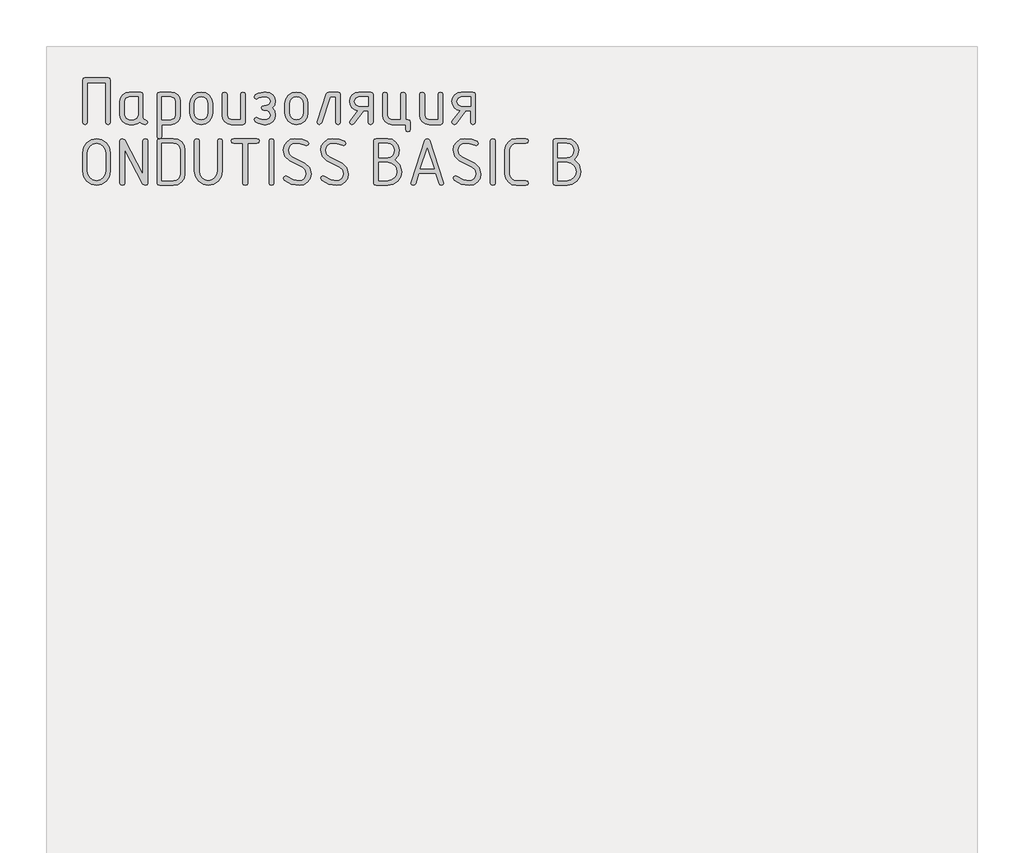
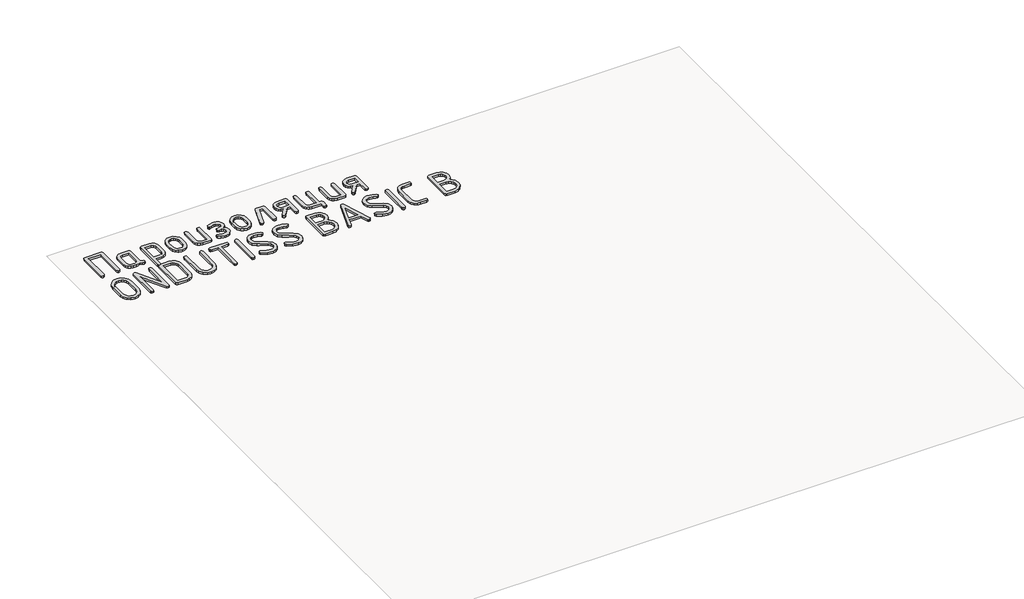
# One storey, part 19 of 42: 1 proxy.
"""IFC4 building model written with IfcOpenShell, lengths in millimetres."""

from ifc_helpers import new_model, si_unit, origin, origin_with_axes, place, context, project, spatial, polyline, outline, extrude, element, save

model = new_model("IFC4")

# Units and contexts
model_context = context("Model", 3, world=origin())
ifc_project = project(units=[si_unit("LENGTHUNIT", "METRE", prefix="MILLI")], contexts=[model_context])

# Site, building, storey
site = spatial("IfcSite", under=ifc_project)
building = spatial("IfcBuilding", under=site)
storey = spatial("IfcBuildingStorey", under=building, Name="Этаж 01", Elevation=0.0)

# Proxy
placement = place(None, origin())
element("IfcBuildingElementProxy", 1, Name="150 мм GOST Common", ObjectType="150 мм GOST Common", at=placement, inside=storey, context=model_context, shape_type="SweptSolid", body=[
    extrude(outline(polyline([(-17013.0545046, -30675.913887), (-16938.5048151, -30675.913887), (-16932.9016029, -30677.8016002), (-16931.0338655, -30683.4647398), (-16931.0338655, -30819.2202837), (-16932.9515424, -30824.8834233), (-16938.7045731, -30826.7711365), (-16944.4576038, -30824.8934112), (-16946.3752807, -30819.2602353), (-16946.3752807, -30691.2553022), (-17005.184039, -30691.2553022), (-17005.184039, -30819.2602353), (-17007.1017159, -30824.8934112), (-17012.8547466, -30826.7711365), (-17018.6077773, -30824.8834233), (-17020.5254542, -30819.2202837), (-17020.5254542, -30683.4647398), (-17018.6577168, -30677.8016002), (-17013.0545046, -30675.913887)])), origin_with_axes(), (0.0, 0.0, 1.0), 10.0),
    extrude(outline(polyline([(-16811.2190109, -30819.3001869), (-16813.0867483, -30824.9033991), (-16818.6899605, -30826.7711365), (-16828.1684781, -30824.7835443), (-16835.7492945, -30818.8207677), (-16844.8682477, -30824.7835443), (-16855.8449504, -30826.7711365), (-16870.7069464, -30826.7711365), (-16882.2030199, -30824.6037621), (-16891.7614407, -30818.1016388), (-16898.2036365, -30808.443339), (-16900.3510351, -30796.8074349), (-16900.3510351, -30751.9018342), (-16898.2036365, -30740.2659301), (-16891.7614407, -30730.6076303), (-16882.2030199, -30724.105507), (-16870.7069464, -30721.9381326), (-16833.6318596, -30721.9381326), (-16828.0586111, -30723.80587), (-16826.2008617, -30729.4090822), (-16826.2008617, -30804.3183361), (-16824.3281303, -30809.9215483), (-16818.7099363, -30811.7892857), (-16813.0917422, -30813.667011), (-16811.2190109, -30819.3001869)]), holes=[polyline([(-16841.5422768, -30737.2795478), (-16870.5071884, -30737.2795478), (-16880.7747501, -30741.6142966), (-16885.0096199, -30752.1015922), (-16885.0096199, -30796.6076769), (-16880.7347985, -30807.0550209), (-16870.5071884, -30811.4297213), (-16856.0447084, -30811.4297213), (-16845.7771467, -30807.0949725), (-16841.5422768, -30796.6076769), (-16841.5422768, -30737.2795478)])]), origin_with_axes(), (0.0, 0.0, 1.0), 10.0),
    extrude(outline(polyline([(-16780.1766161, -30729.4889854), (-16778.3188666, -30723.8258458), (-16772.7456181, -30721.9381326), (-16735.6705313, -30721.9381326), (-16724.1744578, -30724.105507), (-16714.6160371, -30730.6076303), (-16708.1738412, -30740.2659301), (-16706.0264426, -30751.9018342), (-16706.0264426, -30796.8074349), (-16708.1588594, -30808.3684298), (-16714.5561096, -30818.0417114), (-16724.0396212, -30824.5887802), (-16735.4308217, -30826.7711365), (-16764.8352009, -30826.7711365), (-16764.8352009, -30865.1246745), (-16766.7528778, -30870.8777052), (-16772.5059085, -30872.7953821), (-16778.2589392, -30870.9076689), (-16780.1766161, -30865.2445293), (-16780.1766161, -30729.4889854)]), holes=[polyline([(-16764.8352009, -30737.2795478), (-16764.8352009, -30811.4297213), (-16735.8702894, -30811.4297213), (-16725.6027276, -30807.0949725), (-16721.3678578, -30796.6076769), (-16721.3678578, -30752.1015922), (-16725.5428002, -30741.5543692), (-16735.8702894, -30737.2795478), (-16764.8352009, -30737.2795478)])]), origin_with_axes(), (0.0, 0.0, 1.0), 10.0),
    extrude(outline(polyline([(-16675.3436122, -30789.3364853), (-16675.3436122, -30759.3727838), (-16672.6318972, -30744.9802191), (-16664.4967522, -30732.8848716), (-16652.5162656, -30724.6748174), (-16638.2685255, -30721.9381326), (-16623.8709669, -30724.6448537), (-16611.9204439, -30732.7650168), (-16603.87519, -30744.8304006), (-16601.1934388, -30759.3727838), (-16601.1934388, -30789.3364853), (-16603.9051537, -30803.72905), (-16612.0402987, -30815.8243975), (-16624.0207854, -30824.0344517), (-16638.2685255, -30826.7711365), (-16652.5162656, -30824.0344517), (-16664.4967522, -30815.8243975), (-16672.6318972, -30803.72905), (-16675.3436122, -30789.3364853)]), holes=[polyline([(-16616.534854, -30788.8970177), (-16616.534854, -30758.8933645), (-16618.1279241, -30750.2638185), (-16622.9071345, -30742.9926269), (-16629.9336225, -30738.0486162), (-16638.2685255, -30736.4006126), (-16646.6034285, -30738.0486162), (-16653.6299165, -30742.9926269), (-16658.4091269, -30750.2638185), (-16660.002197, -30758.8933645), (-16660.002197, -30788.8970177), (-16658.4241087, -30797.606467), (-16653.6898439, -30804.8776585), (-16646.6783377, -30809.7917056), (-16638.2685255, -30811.4297213), (-16629.9336225, -30809.7817177), (-16622.9071345, -30804.8377069), (-16618.1279241, -30797.5565275), (-16616.534854, -30788.8970177)])]), origin_with_axes(), (0.0, 0.0, 1.0), 10.0),
    extrude(outline(polyline([(-16496.3604349, -30729.4090822), (-16496.3604349, -30819.3001869), (-16498.2181844, -30824.9033991), (-16503.7914329, -30826.7711365), (-16540.8665196, -30826.7711365), (-16552.3625931, -30824.6037621), (-16561.9210139, -30818.1016388), (-16568.3632097, -30808.443339), (-16570.5106084, -30796.8074349), (-16570.5106084, -30729.4090822), (-16568.5929315, -30723.80587), (-16562.8399008, -30721.9381326), (-16557.0868701, -30723.80587), (-16555.1691932, -30729.4090822), (-16555.1691932, -30796.5277737), (-16550.8943717, -30807.0150692), (-16540.6667616, -30811.4297213), (-16511.7018501, -30811.4297213), (-16511.7018501, -30729.4090822), (-16509.7841732, -30723.80587), (-16504.0311425, -30721.9381326), (-16498.2781118, -30723.80587), (-16496.3604349, -30729.4090822)])), origin_with_axes(), (0.0, 0.0, 1.0), 10.0),
    extrude(outline(polyline([(-16414.5395539, -30796.0483545), (-16418.5347141, -30784.7020995), (-16427.4039697, -30780.7468909), (-16437.0722574, -30780.7468909), (-16442.3858205, -30778.5495528), (-16444.543207, -30773.1161349), (-16442.3258931, -30767.6627412), (-16434.9148709, -30765.4054757), (-16432.6376296, -30765.4054757), (-16430.2405335, -30765.4054757), (-16418.5746657, -30761.3503881), (-16414.5395539, -30751.3425118), (-16418.8743027, -30741.3346354), (-16429.5613562, -30737.2795478), (-16437.0722574, -30737.2795478), (-16452.4536242, -30741.0949258), (-16461.3628315, -30744.9103038), (-16465.3579917, -30742.1736191), (-16467.0759106, -30736.9199834), (-16463.9996372, -30731.1769406), (-16454.7708171, -30726.013196), (-16437.0722574, -30721.9381326), (-16429.5613562, -30721.9381326), (-16417.8755126, -30724.0555675), (-16408.0673943, -30730.4078723), (-16401.4154526, -30739.8264625), (-16399.1981387, -30751.1427537), (-16401.8449323, -30764.4366493), (-16409.7853132, -30773.0761833), (-16401.8449323, -30782.2650518), (-16399.1981387, -30796.0883061), (-16401.4154526, -30807.9888895), (-16408.0673943, -30817.881905), (-16417.8755126, -30824.5488286), (-16429.5613562, -30826.7711365), (-16437.0722574, -30826.7711365), (-16454.8906719, -30822.8159279), (-16464.0296009, -30817.7420744), (-16467.0759106, -30811.7892857), (-16465.3579917, -30806.5156742), (-16461.2429767, -30803.7989653), (-16452.1140356, -30807.6143433), (-16437.0722574, -30811.4297213), (-16429.5613562, -30811.4297213), (-16418.9142543, -30806.935166), (-16414.5395539, -30796.0483545)])), origin_with_axes(), (0.0, 0.0, 1.0), 10.0),
    extrude(outline(polyline([(-16368.5153083, -30789.3364853), (-16368.5153083, -30759.3727838), (-16365.8035933, -30744.9802191), (-16357.6684483, -30732.8848716), (-16345.6879616, -30724.6748174), (-16331.4402215, -30721.9381326), (-16317.0426629, -30724.6448537), (-16305.09214, -30732.7650168), (-16297.0468861, -30744.8304006), (-16294.3651348, -30759.3727838), (-16294.3651348, -30789.3364853), (-16297.0768498, -30803.72905), (-16305.2119948, -30815.8243975), (-16317.1924814, -30824.0344517), (-16331.4402215, -30826.7711365), (-16345.6879616, -30824.0344517), (-16357.6684483, -30815.8243975), (-16365.8035933, -30803.72905), (-16368.5153083, -30789.3364853)]), holes=[polyline([(-16309.70655, -30788.8970177), (-16309.70655, -30758.8933645), (-16311.2996201, -30750.2638185), (-16316.0788305, -30742.9926269), (-16323.1053185, -30738.0486162), (-16331.4402215, -30736.4006126), (-16339.7751245, -30738.0486162), (-16346.8016125, -30742.9926269), (-16351.5808229, -30750.2638185), (-16353.1738931, -30758.8933645), (-16353.1738931, -30788.8970177), (-16351.5958048, -30797.606467), (-16346.8615399, -30804.8776585), (-16339.8500338, -30809.7917056), (-16331.4402215, -30811.4297213), (-16323.1053185, -30809.7817177), (-16316.0788305, -30804.8377069), (-16311.2996201, -30797.5565275), (-16309.70655, -30788.8970177)])]), origin_with_axes(), (0.0, 0.0, 1.0), 10.0),
    extrude(outline(polyline([(-16227.3662981, -30721.9381326), (-16197.2028386, -30721.9381326), (-16191.4498079, -30723.80587), (-16189.532131, -30729.4090822), (-16189.532131, -30819.3001869), (-16191.4498079, -30824.9033991), (-16197.2028386, -30826.7711365), (-16202.9558693, -30824.9033991), (-16204.8735462, -30819.3001869), (-16204.8735462, -30737.2795478), (-16222.0127834, -30737.2795478), (-16250.2985177, -30821.697283), (-16257.3699513, -30826.7711365), (-16263.0031272, -30824.8734354), (-16264.8808525, -30819.1803321), (-16264.5212881, -30816.9030908), (-16234.8771993, -30728.0507277), (-16231.9607324, -30723.4662814), (-16227.3662981, -30721.9381326)])), origin_with_axes(), (0.0, 0.0, 1.0), 10.0),
    extrude(outline(polyline([(-16133.3202268, -30781.6258261), (-16143.9024074, -30778.5046072), (-16152.47702, -30771.8576594), (-16158.1551415, -30762.663797), (-16160.0478486, -30751.9018342), (-16157.8704863, -30740.2659301), (-16151.3383994, -30730.6076303), (-16141.6601238, -30724.105507), (-16130.0441955, -30721.9381326), (-16092.3698347, -30721.9381326), (-16086.616804, -30723.80587), (-16084.6991271, -30729.4090822), (-16084.6991271, -30819.3001869), (-16086.616804, -30824.9033991), (-16092.3698347, -30826.7711365), (-16098.1228654, -30824.8934112), (-16100.0405423, -30819.2602353), (-16100.0405423, -30781.7856325), (-16115.2621027, -30781.7856325), (-16146.5042555, -30823.6948631), (-16152.5369474, -30826.7711365), (-16158.1701233, -30824.9033991), (-16160.0478486, -30819.3001869), (-16158.5696393, -30814.7457043), (-16133.3202268, -30781.6258261)]), holes=[polyline([(-16145.0260462, -30752.3013502), (-16140.5914184, -30762.8485732), (-16130.0441955, -30767.283201), (-16100.0405423, -30767.283201), (-16100.0405423, -30737.2795478), (-16130.0441955, -30737.2795478), (-16140.6513458, -30741.6542483), (-16145.0260462, -30752.3013502)])]), origin_with_axes(), (0.0, 0.0, 1.0), 10.0),
    extrude(outline(polyline([(-15972.1954157, -30811.4297213), (-15966.442385, -30813.3473982), (-15964.5247081, -30819.1004289), (-15964.5247081, -30842.1125517), (-15966.442385, -30847.8655824), (-15972.1954157, -30849.7832593), (-15977.9484464, -30847.8655824), (-15979.8661233, -30842.1125517), (-15979.8661233, -30826.7711365), (-16024.372208, -30826.7711365), (-16035.8682815, -30824.5887802), (-16045.4267023, -30818.0417114), (-16051.8688981, -30808.3684298), (-16054.0162967, -30796.8074349), (-16054.0162967, -30729.4090822), (-16052.0986198, -30723.80587), (-16046.3455891, -30721.9381326), (-16040.5925584, -30723.80587), (-16038.6748815, -30729.4090822), (-16038.6748815, -30796.5277737), (-16034.4000601, -30807.0150692), (-16024.17245, -30811.4297213), (-15995.2075385, -30811.4297213), (-15995.2075385, -30729.4090822), (-15993.2898616, -30723.80587), (-15987.5368309, -30721.9381326), (-15981.7838002, -30723.80587), (-15979.8661233, -30729.4090822), (-15979.8661233, -30811.4297213), (-15972.1954157, -30811.4297213)])), origin_with_axes(), (0.0, 0.0, 1.0), 10.0),
    extrude(outline(polyline([(-15859.6917042, -30729.4090822), (-15859.6917042, -30819.3001869), (-15861.5494537, -30824.9033991), (-15867.1227022, -30826.7711365), (-15904.1977889, -30826.7711365), (-15915.6938624, -30824.6037621), (-15925.2522832, -30818.1016388), (-15931.6944791, -30808.443339), (-15933.8418777, -30796.8074349), (-15933.8418777, -30729.4090822), (-15931.9242008, -30723.80587), (-15926.1711701, -30721.9381326), (-15920.4181394, -30723.80587), (-15918.5004625, -30729.4090822), (-15918.5004625, -30796.5277737), (-15914.225641, -30807.0150692), (-15903.9980309, -30811.4297213), (-15875.0331194, -30811.4297213), (-15875.0331194, -30729.4090822), (-15873.1154425, -30723.80587), (-15867.3624118, -30721.9381326), (-15861.6093811, -30723.80587), (-15859.6917042, -30729.4090822)])), origin_with_axes(), (0.0, 0.0, 1.0), 10.0),
    extrude(outline(polyline([(-15803.4798001, -30781.6258261), (-15814.0619807, -30778.5046072), (-15822.6365933, -30771.8576594), (-15828.3147147, -30762.663797), (-15830.2074219, -30751.9018342), (-15828.0300596, -30740.2659301), (-15821.4979726, -30730.6076303), (-15811.819697, -30724.105507), (-15800.2037687, -30721.9381326), (-15762.529408, -30721.9381326), (-15756.7763773, -30723.80587), (-15754.8587004, -30729.4090822), (-15754.8587004, -30819.3001869), (-15756.7763773, -30824.9033991), (-15762.529408, -30826.7711365), (-15768.2824387, -30824.8934112), (-15770.2001156, -30819.2602353), (-15770.2001156, -30781.7856325), (-15785.4216759, -30781.7856325), (-15816.6638288, -30823.6948631), (-15822.6965207, -30826.7711365), (-15828.3296966, -30824.9033991), (-15830.2074219, -30819.3001869), (-15828.7292126, -30814.7457043), (-15803.4798001, -30781.6258261)]), holes=[polyline([(-15815.1856195, -30752.3013502), (-15810.7509917, -30762.8485732), (-15800.2037687, -30767.283201), (-15770.2001156, -30767.283201), (-15770.2001156, -30737.2795478), (-15800.2037687, -30737.2795478), (-15810.8109191, -30741.6542483), (-15815.1856195, -30752.3013502)])]), origin_with_axes(), (0.0, 0.0, 1.0), 10.0),
    extrude(outline(polyline([(-16931.0338655, -30977.5302169), (-16934.3098969, -30994.8991759), (-16944.137991, -31009.5314502), (-16958.6004709, -31019.4793991), (-16975.7796598, -31022.7953821), (-16992.9588487, -31019.4793991), (-17007.4213287, -31009.5314502), (-17017.2494228, -30994.8991759), (-17020.5254542, -30977.5302169), (-17020.5254542, -30917.2032978), (-17017.2494228, -30899.8343388), (-17007.4213287, -30885.2020645), (-16992.9588487, -30875.2541156), (-16975.7796598, -30871.9381326), (-16958.5255617, -30875.2391337), (-16944.0780636, -30885.1421371), (-16934.294915, -30899.7594295), (-16931.0338655, -30917.2032978), (-16931.0338655, -30977.5302169)]), holes=[polyline([(-16946.3752807, -30977.4103621), (-16946.3752807, -30917.3231526), (-16948.5076975, -30905.6772606), (-16954.9049477, -30895.9889971), (-16964.3884593, -30889.4569101), (-16975.7796598, -30887.2795478), (-16987.1708604, -30889.4569101), (-16996.6543719, -30895.9889971), (-17003.0516222, -30905.6772606), (-17005.184039, -30917.3231526), (-17005.184039, -30977.4103621), (-17003.0516222, -30989.0562541), (-16996.6543719, -30998.7445176), (-16987.1708604, -31005.2766046), (-16975.7796598, -31007.4539669), (-16964.3884593, -31005.2766046), (-16954.9049477, -30998.7445176), (-16948.5076975, -30989.0562541), (-16946.3752807, -30977.4103621)])]), origin_with_axes(), (0.0, 0.0, 1.0), 10.0),
    extrude(outline(polyline([(-16826.2008617, -30986.1198114), (-16826.2008617, -30879.4889854), (-16824.2831848, -30873.8258458), (-16818.5301541, -30871.9381326), (-16812.7771234, -30873.8258458), (-16810.8594465, -30879.4889854), (-16810.8594465, -31015.2445293), (-16812.8969782, -31020.9076689), (-16819.0095733, -31022.7953821), (-16826.2008617, -31019.0399315), (-16885.0096199, -30908.4938485), (-16885.0096199, -31015.2445293), (-16886.9272968, -31020.9076689), (-16892.6803275, -31022.7953821), (-16898.4333582, -31020.9076689), (-16900.3510351, -31015.2445293), (-16900.3510351, -30879.4889854), (-16898.353455, -30873.8258458), (-16892.3607147, -30871.9381326), (-16885.0096199, -30876.4127121), (-16826.2008617, -30986.1198114)])), origin_with_axes(), (0.0, 0.0, 1.0), 10.0),
    extrude(outline(polyline([(-16780.1766161, -30879.4889854), (-16778.3088787, -30873.8258458), (-16772.7056665, -30871.9381326), (-16727.9598721, -30871.9381326), (-16713.4874043, -30874.6648295), (-16701.47196, -30882.84492), (-16693.3817605, -30895.0001949), (-16690.6850274, -30909.652445), (-16690.6850274, -30985.0810697), (-16693.4117242, -30999.5835013), (-16701.5918148, -31011.7687399), (-16713.6372228, -31020.0387215), (-16727.9598721, -31022.7953821), (-16772.7056665, -31022.7953821), (-16778.3088787, -31020.9076689), (-16780.1766161, -31015.2445293), (-16780.1766161, -30879.4889854)]), holes=[polyline([(-16764.8352009, -30887.2795478), (-16764.8352009, -31007.4539669), (-16728.079727, -31007.4539669), (-16719.6049934, -31005.8059633), (-16712.4786263, -31000.8619525), (-16707.6394885, -30993.580773), (-16706.0264426, -30984.9212633), (-16706.0264426, -30909.8122514), (-16707.6394885, -30901.1527416), (-16712.4786263, -30893.8715622), (-16719.6049934, -30888.9275514), (-16728.079727, -30887.2795478), (-16764.8352009, -30887.2795478)])]), origin_with_axes(), (0.0, 0.0, 1.0), 10.0),
    extrude(outline(polyline([(-16570.5106084, -30879.4889854), (-16570.5106084, -30977.5302169), (-16573.7866397, -30994.8991759), (-16583.6147338, -31009.5314502), (-16598.0772138, -31019.4793991), (-16615.2564027, -31022.7953821), (-16632.4355916, -31019.4793991), (-16646.8980715, -31009.5314502), (-16656.7261656, -30994.8991759), (-16660.002197, -30977.5302169), (-16660.002197, -30879.4889854), (-16658.0845201, -30873.8258458), (-16652.3314894, -30871.9381326), (-16646.5784587, -30873.8158579), (-16644.6607818, -30879.4490338), (-16644.6607818, -30977.3304589), (-16642.5283651, -30989.0113086), (-16636.1311148, -30998.7245418), (-16626.6476032, -31005.2716106), (-16615.2564027, -31007.4539669), (-16603.8652021, -31005.2716106), (-16594.3816906, -30998.7245418), (-16587.9844403, -30989.0113086), (-16585.8520236, -30977.3304589), (-16585.8520236, -30879.4490338), (-16583.9343467, -30873.8158579), (-16578.181316, -30871.9381326), (-16572.4282853, -30873.8258458), (-16570.5106084, -30879.4889854)])), origin_with_axes(), (0.0, 0.0, 1.0), 10.0),
    extrude(outline(polyline([(-16541.5456969, -30879.6088402), (-16539.6679716, -30873.8558095), (-16534.0347957, -30871.9381326), (-16458.6860741, -30871.9381326), (-16453.082862, -30873.8558095), (-16451.2151246, -30879.6088402), (-16453.082862, -30885.3618709), (-16458.6860741, -30887.2795478), (-16488.6897273, -30887.2795478), (-16488.6897273, -31015.2844809), (-16490.6074042, -31020.9176568), (-16496.3604349, -31022.7953821), (-16502.1134656, -31020.9176568), (-16504.0311425, -31015.2844809), (-16504.0311425, -30887.2795478), (-16534.0347957, -30887.2795478), (-16539.6679716, -30885.3618709), (-16541.5456969, -30879.6088402)])), origin_with_axes(), (0.0, 0.0, 1.0), 10.0),
    extrude(outline(polyline([(-16411.9826513, -31022.7953821), (-16417.735682, -31020.9076689), (-16419.6533589, -31015.2445293), (-16419.6533589, -30879.4889854), (-16417.735682, -30873.8258458), (-16411.9826513, -30871.9381326), (-16406.2296206, -30873.8258458), (-16404.3119437, -30879.4889854), (-16404.3119437, -31015.2445293), (-16406.2296206, -31020.9076689), (-16411.9826513, -31022.7953821)])), origin_with_axes(), (0.0, 0.0, 1.0), 10.0),
    extrude(outline(polyline([(-16284.1375247, -30985.1609729), (-16286.8792034, -30999.5535376), (-16295.1042394, -31011.7287883), (-16307.1646293, -31020.0287336), (-16321.4123694, -31022.7953821), (-16347.4308503, -31018.6104518), (-16370.353082, -31006.0556608), (-16373.6291133, -30999.9430657), (-16371.4317752, -30994.6494784), (-16366.1981153, -30992.4321645), (-16361.9632455, -30993.790519), (-16341.5080253, -31004.2578387), (-16321.7319822, -31007.4539669), (-16313.1823394, -31005.8009693), (-16305.991051, -31000.8419767), (-16301.1069677, -30993.5458154), (-16299.4789399, -30984.8813117), (-16302.5652011, -30972.9158069), (-16311.8239849, -30964.665801), (-16353.5334575, -30943.0120327), (-16368.6051994, -30929.3985243), (-16373.6291133, -30909.5725418), (-16370.9024165, -30895.1799771), (-16362.722326, -30883.0047264), (-16350.7268574, -30874.7047811), (-16336.5540266, -30871.9381326), (-16313.3721095, -30874.0256038), (-16296.4026665, -30880.2880175), (-16291.9680387, -30887.2795478), (-16294.1853526, -30892.5731351), (-16299.4789399, -30894.790449), (-16302.5951648, -30893.991417), (-16319.4747167, -30888.9575151), (-16336.2344138, -30887.2795478), (-16344.7091474, -30888.9325454), (-16351.8355144, -30893.891538), (-16356.6746522, -30901.1876993), (-16358.2876981, -30909.852203), (-16355.2513764, -30921.7877441), (-16346.1424111, -30929.9478588), (-16304.4728901, -30951.6016272), (-16289.221366, -30965.3050267), (-16284.1375247, -30985.1609729)])), origin_with_axes(), (0.0, 0.0, 1.0), 10.0),
    extrude(outline(polyline([(-16163.9631056, -30985.1609729), (-16166.7047843, -30999.5535376), (-16174.9298204, -31011.7287883), (-16186.9902103, -31020.0287336), (-16201.2379504, -31022.7953821), (-16227.2564312, -31018.6104518), (-16250.1786629, -31006.0556608), (-16253.4546943, -30999.9430657), (-16251.2573562, -30994.6494784), (-16246.0236963, -30992.4321645), (-16241.7888265, -30993.790519), (-16221.3336062, -31004.2578387), (-16201.5575632, -31007.4539669), (-16193.0079203, -31005.8009693), (-16185.816632, -31000.8419767), (-16180.9325486, -30993.5458154), (-16179.3045208, -30984.8813117), (-16182.3907821, -30972.9158069), (-16191.6495659, -30964.665801), (-16233.3590384, -30943.0120327), (-16248.4307803, -30929.3985243), (-16253.4546943, -30909.5725418), (-16250.7279974, -30895.1799771), (-16242.5479069, -30883.0047264), (-16230.5524384, -30874.7047811), (-16216.3796075, -30871.9381326), (-16193.1976904, -30874.0256038), (-16176.2282475, -30880.2880175), (-16171.7936196, -30887.2795478), (-16174.0109335, -30892.5731351), (-16179.3045208, -30894.790449), (-16182.4207458, -30893.991417), (-16199.3002977, -30888.9575151), (-16216.0599947, -30887.2795478), (-16224.5347283, -30888.9325454), (-16231.6610953, -30893.891538), (-16236.5002331, -30901.1876993), (-16238.1132791, -30909.852203), (-16235.0769573, -30921.7877441), (-16225.967992, -30929.9478588), (-16184.2984711, -30951.6016272), (-16169.046947, -30965.3050267), (-16163.9631056, -30985.1609729)])), origin_with_axes(), (0.0, 0.0, 1.0), 10.0),
    extrude(outline(polyline([(-16014.5041623, -30940.175469), (-15998.1140175, -30955.9863155), (-15992.6506359, -30978.1694425), (-15995.9266673, -30995.2837101), (-16005.7547614, -31009.7112324), (-16020.2172414, -31019.5243446), (-16037.3964302, -31022.7953821), (-16074.671275, -31022.7953821), (-16080.2744872, -31020.9076689), (-16082.1422246, -31015.2445293), (-16082.1422246, -30879.4889854), (-16080.2844751, -30873.8258458), (-16074.7112266, -30871.9381326), (-16037.5162851, -30871.9381326), (-16023.0787749, -30874.714769), (-16011.0883003, -30883.044678), (-16003.0130827, -30895.4096988), (-16000.3213435, -30910.2916706), (-16003.8670482, -30926.9514887), (-16014.5041623, -30940.175469)]), holes=[polyline([(-16066.8008094, -30887.2795478), (-16066.8008094, -30933.3037934), (-16037.5961883, -30933.3037934), (-16029.1614063, -30931.6208322), (-16022.0749908, -30926.5719485), (-16017.2658167, -30919.1359565), (-16015.6627587, -30910.2916706), (-16017.2658167, -30901.4473847), (-16022.0749908, -30894.0113928), (-16029.1614063, -30888.9625091), (-16037.5961883, -30887.2795478), (-16066.8008094, -30887.2795478)]), polyline([(-16066.8008094, -30948.6452086), (-16066.8008094, -31007.4539669), (-16037.3964302, -31007.4539669), (-16026.0052297, -31005.3215501), (-16016.5217182, -30998.9242998), (-16010.1244679, -30989.4407883), (-16007.9920511, -30978.0495877), (-16010.1244679, -30966.6583872), (-16016.5217182, -30957.1748757), (-16026.0052297, -30950.7776254), (-16037.3964302, -30948.6452086), (-16066.8008094, -30948.6452086)])]), origin_with_axes(), (0.0, 0.0, 1.0), 10.0),
    extrude(outline(polyline([(-15857.2946081, -31015.2445293), (-15859.1723334, -31020.9076689), (-15864.8055093, -31022.7953821), (-15869.3300282, -31021.4869671), (-15871.956846, -31017.5617222), (-15882.7437786, -30984.4418441), (-15936.8382478, -30984.4418441), (-15947.665132, -31017.5617222), (-15950.2919498, -31021.4869671), (-15954.8164688, -31022.7953821), (-15960.4496446, -31020.9076689), (-15962.3273699, -31015.2445293), (-15961.9678055, -31012.8474332), (-15917.3019144, -30878.0107761), (-15914.4054233, -30873.4562935), (-15909.7910132, -30871.9381326), (-15905.2365306, -30873.3963661), (-15902.4399184, -30877.7710665), (-15857.6541725, -31012.8474332), (-15857.2946081, -31015.2445293)]), holes=[polyline([(-15909.7910132, -30902.9405758), (-15931.8442976, -30969.1004289), (-15887.7776805, -30969.1004289), (-15909.7910132, -30902.9405758)])]), origin_with_axes(), (0.0, 0.0, 1.0), 10.0),
    extrude(outline(polyline([(-15736.9603826, -30985.1609729), (-15739.7020613, -30999.5535376), (-15747.9270974, -31011.7287883), (-15759.9874873, -31020.0287336), (-15774.2352274, -31022.7953821), (-15800.2537082, -31018.6104518), (-15823.1759399, -31006.0556608), (-15826.4519713, -30999.9430657), (-15824.2546332, -30994.6494784), (-15819.0209733, -30992.4321645), (-15814.7861035, -30993.790519), (-15794.3308832, -31004.2578387), (-15774.5548402, -31007.4539669), (-15766.0051973, -31005.8009693), (-15758.813909, -31000.8419767), (-15753.9298256, -30993.5458154), (-15752.3017978, -30984.8813117), (-15755.3880591, -30972.9158069), (-15764.6468429, -30964.665801), (-15806.3563154, -30943.0120327), (-15821.4280573, -30929.3985243), (-15826.4519713, -30909.5725418), (-15823.7252744, -30895.1799771), (-15815.5451839, -30883.0047264), (-15803.5497154, -30874.7047811), (-15789.3768846, -30871.9381326), (-15766.1949674, -30874.0256038), (-15749.2255245, -30880.2880175), (-15744.7908966, -30887.2795478), (-15747.0082105, -30892.5731351), (-15752.3017978, -30894.790449), (-15755.4180228, -30893.991417), (-15772.2975747, -30888.9575151), (-15789.0572717, -30887.2795478), (-15797.5320053, -30888.9325454), (-15804.6583723, -30893.891538), (-15809.4975101, -30901.1876993), (-15811.1105561, -30909.852203), (-15808.0742343, -30921.7877441), (-15798.9652691, -30929.9478588), (-15757.2957481, -30951.6016272), (-15742.044224, -30965.3050267), (-15736.9603826, -30985.1609729)])), origin_with_axes(), (0.0, 0.0, 1.0), 10.0),
    extrude(outline(polyline([(-15698.6068446, -31022.7953821), (-15704.3598753, -31020.9076689), (-15706.2775522, -31015.2445293), (-15706.2775522, -30879.4889854), (-15704.3598753, -30873.8258458), (-15698.6068446, -30871.9381326), (-15692.8538139, -30873.8258458), (-15690.936137, -30879.4889854), (-15690.936137, -31015.2445293), (-15692.8538139, -31020.9076689), (-15698.6068446, -31022.7953821)])), origin_with_axes(), (0.0, 0.0, 1.0), 10.0),
    extrude(outline(polyline([(-15592.4154863, -30871.9381326), (-15586.7823104, -30873.8558095), (-15584.9045851, -30879.6088402), (-15586.7823104, -30885.3618709), (-15592.4154863, -30887.2795478), (-15622.4191395, -30887.2795478), (-15631.1235948, -30888.9275514), (-15638.3798045, -30893.8715622), (-15643.2788697, -30901.1527416), (-15644.9118914, -30909.8122514), (-15644.9118914, -30984.9212633), (-15643.2638879, -30993.580773), (-15638.3198771, -31000.8619525), (-15631.0486855, -31005.8059633), (-15622.4191395, -31007.4539669), (-15592.4154863, -31007.4539669), (-15586.7823104, -31009.3716438), (-15584.9045851, -31015.1246745), (-15586.7823104, -31020.8777052), (-15592.4154863, -31022.7953821), (-15622.4191395, -31022.7953821), (-15636.8866134, -31020.0387215), (-15649.1267855, -31011.7687399), (-15657.4716763, -30999.5835013), (-15660.2533066, -30985.0810697), (-15660.2533066, -30909.652445), (-15657.4716763, -30895.1500134), (-15649.1267855, -30882.9647748), (-15636.8866134, -30874.6947932), (-15622.4191395, -30871.9381326), (-15592.4154863, -30871.9381326)])), origin_with_axes(), (0.0, 0.0, 1.0), 10.0),
    extrude(outline(polyline([(-15436.6441898, -30940.175469), (-15420.2540451, -30955.9863155), (-15414.7906635, -30978.1694425), (-15418.0666948, -30995.2837101), (-15427.894789, -31009.7112324), (-15442.3572689, -31019.5243446), (-15459.5364578, -31022.7953821), (-15496.8113025, -31022.7953821), (-15502.4145147, -31020.9076689), (-15504.2822521, -31015.2445293), (-15504.2822521, -30879.4889854), (-15502.4245026, -30873.8258458), (-15496.8512541, -30871.9381326), (-15459.6563126, -30871.9381326), (-15445.2188024, -30874.714769), (-15433.2283278, -30883.044678), (-15425.1531103, -30895.4096988), (-15422.4613711, -30910.2916706), (-15426.0070758, -30926.9514887), (-15436.6441898, -30940.175469)]), holes=[polyline([(-15488.9408369, -30887.2795478), (-15488.9408369, -30933.3037934), (-15459.7362158, -30933.3037934), (-15451.3014338, -30931.6208322), (-15444.2150184, -30926.5719485), (-15439.4058443, -30919.1359565), (-15437.8027863, -30910.2916706), (-15439.4058443, -30901.4473847), (-15444.2150184, -30894.0113928), (-15451.3014338, -30888.9625091), (-15459.7362158, -30887.2795478), (-15488.9408369, -30887.2795478)]), polyline([(-15488.9408369, -30948.6452086), (-15488.9408369, -31007.4539669), (-15459.5364578, -31007.4539669), (-15448.1452573, -31005.3215501), (-15438.6617457, -30998.9242998), (-15432.2644954, -30989.4407883), (-15430.1320787, -30978.0495877), (-15432.2644954, -30966.6583872), (-15438.6617457, -30957.1748757), (-15448.1452573, -30950.7776254), (-15459.5364578, -30948.6452086), (-15488.9408369, -30948.6452086)])]), origin_with_axes(), (0.0, 0.0, 1.0), 10.0),
])

save(model, "model.ifc")
